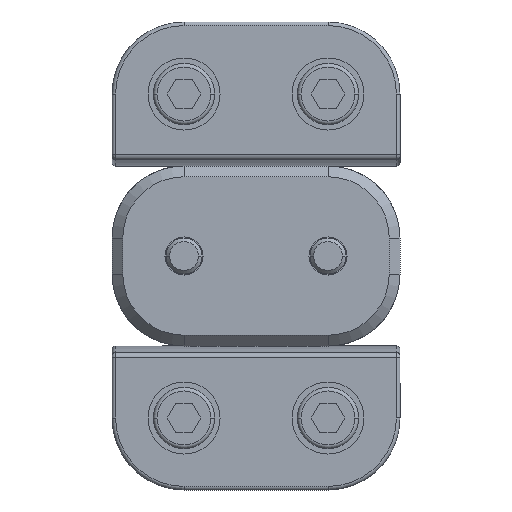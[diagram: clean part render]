
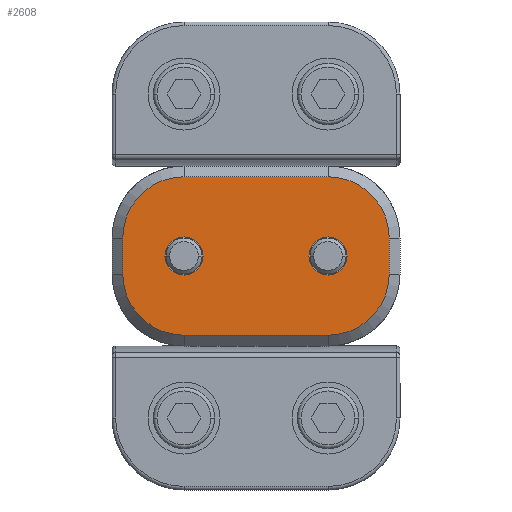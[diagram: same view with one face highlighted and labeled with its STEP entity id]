
A CAD part, front view. The second image highlights one B-rep face of the part: STEP entity #2608.
In plain terms, the highlighted planar face has unit normal (0, -1, 0) as drawn and (0, 0, 1) by its records, which use the part's own axes.
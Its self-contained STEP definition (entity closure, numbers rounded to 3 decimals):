
#61 = ORIENTED_EDGE ( 'NONE', *, *, #2963, .T. ) ;
#133 = AXIS2_PLACEMENT_3D ( 'NONE', #7474, #3677, #3026 ) ;
#171 = CARTESIAN_POINT ( 'NONE',  ( 40., -11., 0. ) ) ;
#199 = CIRCLE ( 'NONE', #5884, 8.5 ) ;
#292 = AXIS2_PLACEMENT_3D ( 'NONE', #9126, #5447, #7687 ) ;
#430 = EDGE_CURVE ( 'NONE', #9556, #609, #7789, .T. ) ;
#518 = ORIENTED_EDGE ( 'NONE', *, *, #430, .T. ) ;
#609 = VERTEX_POINT ( 'NONE', #9315 ) ;
#743 = CIRCLE ( 'NONE', #6919, 2.65 ) ;
#920 = VERTEX_POINT ( 'NONE', #1508 ) ;
#939 = ORIENTED_EDGE ( 'NONE', *, *, #5029, .T. ) ;
#1075 = VERTEX_POINT ( 'NONE', #8446 ) ;
#1100 = DIRECTION ( 'NONE',  ( -1., 0., 0. ) ) ;
#1112 = LINE ( 'NONE', #5356, #8421 ) ;
#1192 = ORIENTED_EDGE ( 'NONE', *, *, #6897, .T. ) ;
#1362 = AXIS2_PLACEMENT_3D ( 'NONE', #1785, #5413, #1100 ) ;
#1435 = EDGE_CURVE ( 'NONE', #609, #9556, #5653, .T. ) ;
#1508 = CARTESIAN_POINT ( 'NONE',  ( 30., 11., 0. ) ) ;
#1599 = ORIENTED_EDGE ( 'NONE', *, *, #9086, .T. ) ;
#1619 = VERTEX_POINT ( 'NONE', #3969 ) ;
#1724 = CARTESIAN_POINT ( 'NONE',  ( 1.5, -2.5, 0. ) ) ;
#1785 = CARTESIAN_POINT ( 'NONE',  ( 30., -2.5, 0. ) ) ;
#1790 = CARTESIAN_POINT ( 'NONE',  ( 10., -11., 0. ) ) ;
#1908 = CARTESIAN_POINT ( 'NONE',  ( 27.35, 0., 0. ) ) ;
#1941 = CARTESIAN_POINT ( 'NONE',  ( 10., 11., 0. ) ) ;
#1979 = CARTESIAN_POINT ( 'NONE',  ( 1.5, 2.5, 0. ) ) ;
#2012 = CARTESIAN_POINT ( 'NONE',  ( 10., 2.5, 0. ) ) ;
#2248 = DIRECTION ( 'NONE',  ( 0., 1., 0. ) ) ;
#2268 = VERTEX_POINT ( 'NONE', #7462 ) ;
#2383 = EDGE_LOOP ( 'NONE', ( #518, #3019 ) ) ;
#2457 = DIRECTION ( 'NONE',  ( 0., 0., -1. ) ) ;
#2608 = ADVANCED_FACE ( 'NONE', ( #7744, #8547, #5869 ), #3261, .F. ) ;
#2705 = DIRECTION ( 'NONE',  ( -1., 0., 0. ) ) ;
#2711 = LINE ( 'NONE', #4485, #5835 ) ;
#2861 = CARTESIAN_POINT ( 'NONE',  ( 38.5, -2.5, 0. ) ) ;
#2963 = EDGE_CURVE ( 'NONE', #5850, #5608, #1112, .T. ) ;
#3019 = ORIENTED_EDGE ( 'NONE', *, *, #1435, .T. ) ;
#3026 = DIRECTION ( 'NONE',  ( -1., 0., 0. ) ) ;
#3261 = PLANE ( 'NONE',  #3976 ) ;
#3263 = DIRECTION ( 'NONE',  ( -1., 0., 0. ) ) ;
#3376 = VERTEX_POINT ( 'NONE', #2861 ) ;
#3668 = ORIENTED_EDGE ( 'NONE', *, *, #9371, .T. ) ;
#3677 = DIRECTION ( 'NONE',  ( 0., 0., -1. ) ) ;
#3822 = DIRECTION ( 'NONE',  ( 0., -1., 0. ) ) ;
#3876 = DIRECTION ( 'NONE',  ( -1., 0., 0. ) ) ;
#3899 = ORIENTED_EDGE ( 'NONE', *, *, #6738, .T. ) ;
#3923 = VECTOR ( 'NONE', #6112, 1000. ) ;
#3969 = CARTESIAN_POINT ( 'NONE',  ( 30., -11., 0. ) ) ;
#3976 = AXIS2_PLACEMENT_3D ( 'NONE', #8511, #4144, #9346 ) ;
#4134 = DIRECTION ( 'NONE',  ( -1., 0., 0. ) ) ;
#4144 = DIRECTION ( 'NONE',  ( 0., 0., -1. ) ) ;
#4199 = CARTESIAN_POINT ( 'NONE',  ( 10., 0., 0. ) ) ;
#4208 = CIRCLE ( 'NONE', #292, 8.5 ) ;
#4209 = ORIENTED_EDGE ( 'NONE', *, *, #9049, .T. ) ;
#4234 = DIRECTION ( 'NONE',  ( 0., 0., -1. ) ) ;
#4297 = EDGE_LOOP ( 'NONE', ( #1192, #4209 ) ) ;
#4382 = DIRECTION ( 'NONE',  ( -1., 0., 0. ) ) ;
#4485 = CARTESIAN_POINT ( 'NONE',  ( 38.5, -12.5, 0. ) ) ;
#4589 = CARTESIAN_POINT ( 'NONE',  ( 7.35, 0., 0. ) ) ;
#4632 = CARTESIAN_POINT ( 'NONE',  ( 30., 0., 0. ) ) ;
#4751 = EDGE_CURVE ( 'NONE', #1619, #3376, #5866, .T. ) ;
#4753 = AXIS2_PLACEMENT_3D ( 'NONE', #2012, #7218, #7958 ) ;
#4896 = VERTEX_POINT ( 'NONE', #1941 ) ;
#4954 = LINE ( 'NONE', #171, #3923 ) ;
#5029 = EDGE_CURVE ( 'NONE', #2268, #920, #199, .T. ) ;
#5036 = AXIS2_PLACEMENT_3D ( 'NONE', #7154, #7019, #2705 ) ;
#5356 = CARTESIAN_POINT ( 'NONE',  ( 1.5, -2.5, 0. ) ) ;
#5413 = DIRECTION ( 'NONE',  ( 0., 0., 1. ) ) ;
#5447 = DIRECTION ( 'NONE',  ( 0., 0., 1. ) ) ;
#5481 = LINE ( 'NONE', #8312, #9091 ) ;
#5608 = VERTEX_POINT ( 'NONE', #1724 ) ;
#5653 = CIRCLE ( 'NONE', #133, 2.65 ) ;
#5720 = VERTEX_POINT ( 'NONE', #1790 ) ;
#5835 = VECTOR ( 'NONE', #2248, 1000. ) ;
#5850 = VERTEX_POINT ( 'NONE', #1979 ) ;
#5866 = CIRCLE ( 'NONE', #1362, 8.5 ) ;
#5869 = FACE_BOUND ( 'NONE', #2383, .T. ) ;
#5884 = AXIS2_PLACEMENT_3D ( 'NONE', #6586, #8073, #4382 ) ;
#6112 = DIRECTION ( 'NONE',  ( 1., 0., 0. ) ) ;
#6434 = AXIS2_PLACEMENT_3D ( 'NONE', #4632, #2457, #3263 ) ;
#6586 = CARTESIAN_POINT ( 'NONE',  ( 30., 2.5, 0. ) ) ;
#6738 = EDGE_CURVE ( 'NONE', #5720, #1619, #4954, .T. ) ;
#6897 = EDGE_CURVE ( 'NONE', #8177, #1075, #7972, .T. ) ;
#6919 = AXIS2_PLACEMENT_3D ( 'NONE', #4199, #4234, #4134 ) ;
#7019 = DIRECTION ( 'NONE',  ( 0., 0., -1. ) ) ;
#7154 = CARTESIAN_POINT ( 'NONE',  ( 10., 0., 0. ) ) ;
#7218 = DIRECTION ( 'NONE',  ( 0., 0., 1. ) ) ;
#7462 = CARTESIAN_POINT ( 'NONE',  ( 38.5, 2.5, 0. ) ) ;
#7474 = CARTESIAN_POINT ( 'NONE',  ( 30., 0., 0. ) ) ;
#7687 = DIRECTION ( 'NONE',  ( -1., 0., 0. ) ) ;
#7744 = FACE_OUTER_BOUND ( 'NONE', #9106, .T. ) ;
#7789 = CIRCLE ( 'NONE', #6434, 2.65 ) ;
#7957 = ORIENTED_EDGE ( 'NONE', *, *, #8651, .T. ) ;
#7958 = DIRECTION ( 'NONE',  ( -1., 0., 0. ) ) ;
#7972 = CIRCLE ( 'NONE', #5036, 2.65 ) ;
#8073 = DIRECTION ( 'NONE',  ( 0., 0., 1. ) ) ;
#8177 = VERTEX_POINT ( 'NONE', #4589 ) ;
#8312 = CARTESIAN_POINT ( 'NONE',  ( 40., 11., 0. ) ) ;
#8421 = VECTOR ( 'NONE', #3822, 1000. ) ;
#8446 = CARTESIAN_POINT ( 'NONE',  ( 12.65, 0., 0. ) ) ;
#8480 = EDGE_CURVE ( 'NONE', #3376, #2268, #2711, .T. ) ;
#8511 = CARTESIAN_POINT ( 'NONE',  ( 40., -12.5, 0. ) ) ;
#8547 = FACE_BOUND ( 'NONE', #4297, .T. ) ;
#8551 = ORIENTED_EDGE ( 'NONE', *, *, #8480, .T. ) ;
#8651 = EDGE_CURVE ( 'NONE', #920, #4896, #5481, .T. ) ;
#9049 = EDGE_CURVE ( 'NONE', #1075, #8177, #743, .T. ) ;
#9086 = EDGE_CURVE ( 'NONE', #4896, #5850, #9459, .T. ) ;
#9091 = VECTOR ( 'NONE', #3876, 1000. ) ;
#9106 = EDGE_LOOP ( 'NONE', ( #1599, #61, #3668, #3899, #9293, #8551, #939, #7957 ) ) ;
#9126 = CARTESIAN_POINT ( 'NONE',  ( 10., -2.5, 0. ) ) ;
#9293 = ORIENTED_EDGE ( 'NONE', *, *, #4751, .T. ) ;
#9315 = CARTESIAN_POINT ( 'NONE',  ( 32.65, 0., 0. ) ) ;
#9346 = DIRECTION ( 'NONE',  ( -1., 0., 0. ) ) ;
#9371 = EDGE_CURVE ( 'NONE', #5608, #5720, #4208, .T. ) ;
#9459 = CIRCLE ( 'NONE', #4753, 8.5 ) ;
#9556 = VERTEX_POINT ( 'NONE', #1908 ) ;
